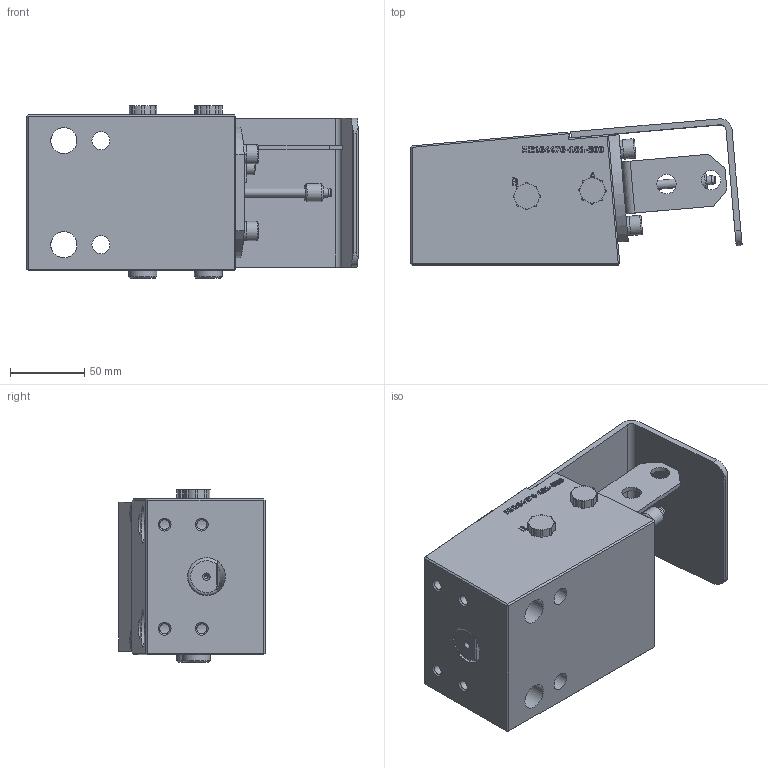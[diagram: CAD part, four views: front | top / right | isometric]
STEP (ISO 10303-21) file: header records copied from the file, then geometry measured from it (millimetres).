
FILE_DESCRIPTION(/* description */ (''),/* implementation_level */ '2;1');
FILE_NAME(/* name */ 'Z:\Standard products\1. QMC Clamping Systems\3. MOD - Mold clamp\MOD250\MOD250-300-RH-250-P500(M16) Alternative(01-05-17).stp',/* time_stamp */ '2017-05-01T08:00:50+02:00',/* author */ ('breep'),/* organization */ (''),/* preprocessor_version */ 'ST-DEVELOPER v16.1',/* originating_system */ 'Autodesk Inventor 2016',/* authorisation */ '');
FILE_SCHEMA (('AUTOMOTIVE_DESIGN { 1 0 10303 214 3 1 1 }'));
Length unit declared in the file: millimetre
Products named in the file (1): Part44
Bounding box: 223.12 x 98.14 x 116.1 mm (x, y, z)
Volume: 1212335.9 mm3; surface area: 185650.3 mm2
Topology: 1 solids, 18 shells, 824 faces, 2077 edges, 1342 vertices
Faces by surface type: plane 426, cylinder 161, bspline 124, cone 80, torus 31, sphere 2
Full cylindrical faces by diameter (mm): 2.5 x1, 3 x2, 4 x7, 4.134 x2, 4.3 x1, 4.917 x5, 5 x2, 5.5 x1, 6 x10, 6.02 x1, 6.1 x1, 6.2 x3, 6.5 x2, 6.647 x8, 8 x4, 8.75 x1, 9 x6, 10 x4, 10.03 x1, 10.8 x1, 11.2 x2, 11.445 x5, 11.6 x2, 12 x1, 12.1 x2, 13 x8, 16.4 x2, 16.8 x2, 17.5 x2, 18.8 x2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
Entity records: 24541 total; most frequent: CARTESIAN_POINT 6205, ORIENTED_EDGE 3494, DIRECTION 3222, EDGE_CURVE 1747, VERTEX_POINT 1231, EDGE_LOOP 1144, AXIS2_PLACEMENT_3D 1134, LINE 954
